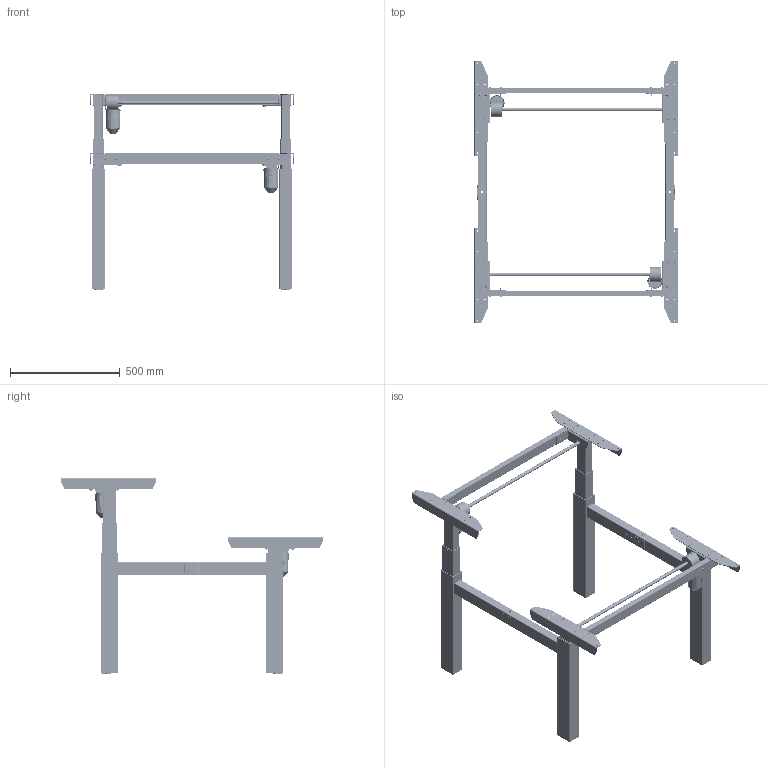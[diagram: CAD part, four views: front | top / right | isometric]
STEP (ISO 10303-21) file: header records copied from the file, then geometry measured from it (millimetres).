
FILE_DESCRIPTION (( 'STEP AP203' ), '1' );
FILE_NAME ('Tech-draw_501-88_XX092.STEP', '2019-09-26T07:08:26', ( '' ), ( '' ), 'SwSTEP 2.0', 'SolidWorks 2018', '' );
FILE_SCHEMA (( 'CONFIG_CONTROL_DESIGN' ));
Length unit declared in the file: millimetre
Products named in the file (38): 143700_black1; 346190_shell view; 332570; 142080_black1; 149220_501-88 XB092; 340560; 342310_black; 143710_black1; 143690_black; 347910_92; 346640; 347920_92; 306980; 347360_black; 340760; 347080_black; 341220; 143690_black1; 341800; 347590; 352610; 142070_black1; 144260_92; 346340; 346290_shell view; 346330; 348920_black; 324520_black; 346260; 346250_black1; 346910_black; 308630; 344430_black; 342310; 143700_black; 341800_black; 346210_shell view; Tech-draw_501-88_XX092
Assembly tree (121 placements, depth 6):
  Tech-draw_501-88_XX092
    149220_501-88 XB092
      347910_92  x2
      143690_black
        143700_black
          143710_black1
            347590
            346260  x2
          346250_black1  x2
          342310_black  x2
          341800_black  x6
          346910_black  x2
        142070_black1
          346290_shell view
          346190_shell view
          346330
          346640
        142080_black1
          346290_shell view
          346210_shell view
          346340
          346640
        344430_black
        324520_black  x2
        341800_black  x3
        341800  x3
        342310_black
        342310
        306980  x2
        347360_black  x2
        347080_black  x2
        352610
      143690_black1
        143700_black1
          143710_black1
            347590
            346260  x2
          346250_black1  x2
          342310_black  x2
          341800_black  x6
          346910_black  x2
        142070_black1
          346290_shell view
          346190_shell view
          346330
          346640
        142080_black1
          346290_shell view
          346210_shell view
          346340
          346640
        344430_black
        324520_black  x2
        341800  x3
        341800_black  x3
        342310
        342310_black
        306980  x2
        347360_black  x2
        347080_black  x2
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Bounding box: 924.9 x 1190 x 892.65 mm (x, y, z)
Volume: 4989778.2 mm3; surface area: 5057858.4 mm2
Topology: 122 solids, 122 shells, 7870 faces, 20790 edges, 13326 vertices
Faces by surface type: plane 4216, cylinder 2190, bspline 956, torus 246, cone 226, sphere 36
Full cylindrical faces by diameter (mm): 2.8 x4, 3 x4, 4 x24, 4.6 x8, 5 x32, 6 x16, 7 x32, 7.6 x8, 8 x24, 10 x18, 11.9 x4, 12 x2, 13 x4, 15 x4, 16 x4, 18 x6, 20 x2, 24 x4, 37.6 x8, 60 x2
Entity records: 103844 total; most frequent: CARTESIAN_POINT 42385, ORIENTED_EDGE 11892, DIRECTION 10839, EDGE_CURVE 5946, VERTEX_POINT 3872, AXIS2_PLACEMENT_3D 3832, LINE 3175, VECTOR 3175
